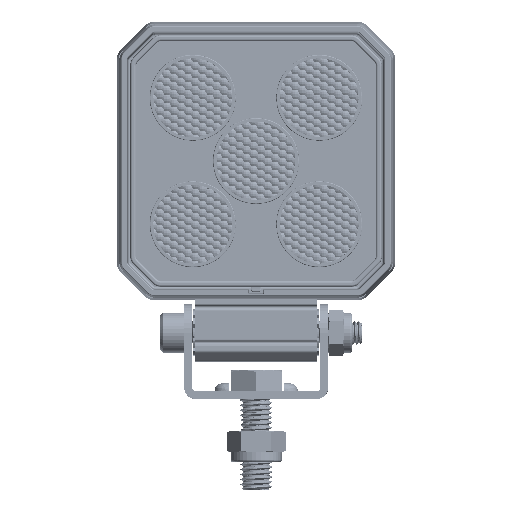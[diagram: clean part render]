
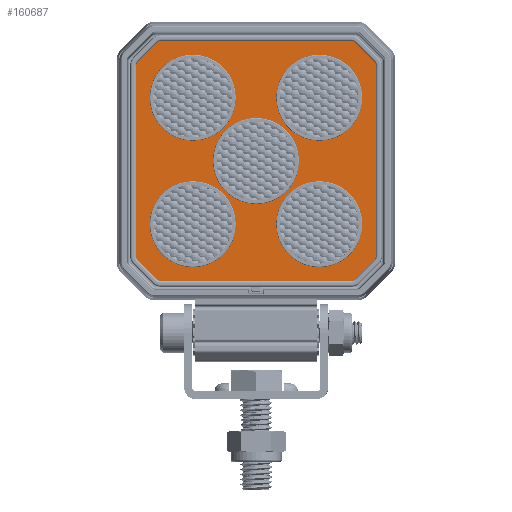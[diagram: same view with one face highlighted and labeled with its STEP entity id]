
A CAD part, top view. The second image highlights one B-rep face of the part: STEP entity #160687.
In plain terms, the highlighted planar face has unit normal (0, 0, 1).
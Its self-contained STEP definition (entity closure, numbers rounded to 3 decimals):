
#127038=CARTESIAN_POINT('',(24.107,28.85,0.));
#127039=DIRECTION('',(0.,0.,1.));
#127040=DIRECTION('',(0.707,0.707,0.));
#127041=AXIS2_PLACEMENT_3D('',#127038,#127039,#127040);
#127043=DIRECTION('',(-0.707,0.707,0.));
#127044=VECTOR('',#127043,6.707);
#127045=CARTESIAN_POINT('',(29.911,25.168,0.));
#127046=LINE('',#127045,#127044);
#127047=CARTESIAN_POINT('',(28.85,24.107,0.));
#127048=DIRECTION('',(0.,0.,1.));
#127049=DIRECTION('',(1.,0.,0.));
#127050=AXIS2_PLACEMENT_3D('',#127047,#127048,#127049);
#127052=DIRECTION('',(0.,1.,0.));
#127053=VECTOR('',#127052,48.215);
#127054=CARTESIAN_POINT('',(30.35,-24.107,0.));
#127055=LINE('',#127054,#127053);
#127056=CARTESIAN_POINT('',(28.85,-24.107,0.));
#127057=DIRECTION('',(0.,0.,1.));
#127058=DIRECTION('',(0.707,-0.707,0.));
#127059=AXIS2_PLACEMENT_3D('',#127056,#127057,#127058);
#127061=DIRECTION('',(0.707,0.707,0.));
#127062=VECTOR('',#127061,6.707);
#127063=CARTESIAN_POINT('',(25.168,-29.911,0.));
#127064=LINE('',#127063,#127062);
#127065=CARTESIAN_POINT('',(24.107,-28.85,0.));
#127066=DIRECTION('',(0.,0.,1.));
#127067=DIRECTION('',(0.,-1.,0.));
#127068=AXIS2_PLACEMENT_3D('',#127065,#127066,#127067);
#127070=DIRECTION('',(1.,0.,0.));
#127071=VECTOR('',#127070,48.215);
#127072=CARTESIAN_POINT('',(-24.107,-30.35,0.));
#127073=LINE('',#127072,#127071);
#127074=CARTESIAN_POINT('',(-24.107,-28.85,0.));
#127075=DIRECTION('',(0.,0.,1.));
#127076=DIRECTION('',(-0.707,-0.707,0.));
#127077=AXIS2_PLACEMENT_3D('',#127074,#127075,#127076);
#127079=DIRECTION('',(0.707,-0.707,0.));
#127080=VECTOR('',#127079,6.707);
#127081=CARTESIAN_POINT('',(-29.911,-25.168,0.));
#127082=LINE('',#127081,#127080);
#127083=CARTESIAN_POINT('',(-28.85,-24.107,0.));
#127084=DIRECTION('',(0.,0.,1.));
#127085=DIRECTION('',(-1.,0.,0.));
#127086=AXIS2_PLACEMENT_3D('',#127083,#127084,#127085);
#127088=DIRECTION('',(0.,-1.,0.));
#127089=VECTOR('',#127088,48.215);
#127090=CARTESIAN_POINT('',(-30.35,24.107,0.));
#127091=LINE('',#127090,#127089);
#127092=CARTESIAN_POINT('',(-28.85,24.107,0.));
#127093=DIRECTION('',(0.,0.,1.));
#127094=DIRECTION('',(-0.707,0.707,0.));
#127095=AXIS2_PLACEMENT_3D('',#127092,#127093,#127094);
#127097=DIRECTION('',(-0.707,-0.707,0.));
#127098=VECTOR('',#127097,6.707);
#127099=CARTESIAN_POINT('',(-25.168,29.911,0.));
#127100=LINE('',#127099,#127098);
#127101=CARTESIAN_POINT('',(-24.107,28.85,0.));
#127102=DIRECTION('',(0.,0.,1.));
#127103=DIRECTION('',(0.,1.,0.));
#127104=AXIS2_PLACEMENT_3D('',#127101,#127102,#127103);
#127106=DIRECTION('',(-1.,0.,0.));
#127107=VECTOR('',#127106,48.215);
#127108=CARTESIAN_POINT('',(24.107,30.35,0.));
#127109=LINE('',#127108,#127107);
#127110=CARTESIAN_POINT('',(0.,0.,0.));
#127111=DIRECTION('',(0.,0.,1.));
#127112=DIRECTION('',(0.,1.,0.));
#127113=AXIS2_PLACEMENT_3D('',#127110,#127111,#127112);
#127115=CARTESIAN_POINT('',(0.,0.,0.));
#127116=DIRECTION('',(0.,0.,1.));
#127117=DIRECTION('',(0.,-1.,0.));
#127118=AXIS2_PLACEMENT_3D('',#127115,#127116,#127117);
#127120=CARTESIAN_POINT('',(16.,16.,0.));
#127121=DIRECTION('',(0.,0.,1.));
#127122=DIRECTION('',(0.,1.,0.));
#127123=AXIS2_PLACEMENT_3D('',#127120,#127121,#127122);
#127125=CARTESIAN_POINT('',(16.,16.,0.));
#127126=DIRECTION('',(0.,0.,1.));
#127127=DIRECTION('',(0.,-1.,0.));
#127128=AXIS2_PLACEMENT_3D('',#127125,#127126,#127127);
#127130=CARTESIAN_POINT('',(16.,-16.,0.));
#127131=DIRECTION('',(0.,0.,1.));
#127132=DIRECTION('',(0.,1.,0.));
#127133=AXIS2_PLACEMENT_3D('',#127130,#127131,#127132);
#127135=CARTESIAN_POINT('',(16.,-16.,0.));
#127136=DIRECTION('',(0.,0.,1.));
#127137=DIRECTION('',(0.,-1.,0.));
#127138=AXIS2_PLACEMENT_3D('',#127135,#127136,#127137);
#127140=CARTESIAN_POINT('',(-16.,16.,0.));
#127141=DIRECTION('',(0.,0.,-1.));
#127142=DIRECTION('',(0.,1.,0.));
#127143=AXIS2_PLACEMENT_3D('',#127140,#127141,#127142);
#127145=CARTESIAN_POINT('',(-16.,16.,0.));
#127146=DIRECTION('',(0.,0.,-1.));
#127147=DIRECTION('',(0.,-1.,0.));
#127148=AXIS2_PLACEMENT_3D('',#127145,#127146,#127147);
#127150=CARTESIAN_POINT('',(-16.,-16.,0.));
#127151=DIRECTION('',(0.,0.,-1.));
#127152=DIRECTION('',(0.,1.,0.));
#127153=AXIS2_PLACEMENT_3D('',#127150,#127151,#127152);
#127155=CARTESIAN_POINT('',(-16.,-16.,0.));
#127156=DIRECTION('',(0.,0.,-1.));
#127157=DIRECTION('',(0.,-1.,0.));
#127158=AXIS2_PLACEMENT_3D('',#127155,#127156,#127157);
#157608=CARTESIAN_POINT('',(25.168,29.911,0.));
#157609=CARTESIAN_POINT('',(24.107,30.35,0.));
#157610=VERTEX_POINT('',#157608);
#157611=VERTEX_POINT('',#157609);
#157612=CARTESIAN_POINT('',(-24.107,30.35,0.));
#157613=VERTEX_POINT('',#157612);
#157614=CARTESIAN_POINT('',(-25.168,29.911,0.));
#157615=VERTEX_POINT('',#157614);
#157616=CARTESIAN_POINT('',(-29.911,25.168,0.));
#157617=VERTEX_POINT('',#157616);
#157618=CARTESIAN_POINT('',(-30.35,24.107,0.));
#157619=VERTEX_POINT('',#157618);
#157620=CARTESIAN_POINT('',(-30.35,-24.107,0.));
#157621=VERTEX_POINT('',#157620);
#157622=CARTESIAN_POINT('',(-29.911,-25.168,0.));
#157623=VERTEX_POINT('',#157622);
#157624=CARTESIAN_POINT('',(-25.168,-29.911,0.));
#157625=VERTEX_POINT('',#157624);
#157626=CARTESIAN_POINT('',(-24.107,-30.35,0.));
#157627=VERTEX_POINT('',#157626);
#157628=CARTESIAN_POINT('',(24.107,-30.35,0.));
#157629=VERTEX_POINT('',#157628);
#157630=CARTESIAN_POINT('',(25.168,-29.911,0.));
#157631=VERTEX_POINT('',#157630);
#157632=CARTESIAN_POINT('',(29.911,-25.168,0.));
#157633=VERTEX_POINT('',#157632);
#157634=CARTESIAN_POINT('',(30.35,-24.107,0.));
#157635=VERTEX_POINT('',#157634);
#157636=CARTESIAN_POINT('',(30.35,24.107,0.));
#157637=VERTEX_POINT('',#157636);
#157638=CARTESIAN_POINT('',(29.911,25.168,0.));
#157639=VERTEX_POINT('',#157638);
#158939=CARTESIAN_POINT('',(0.,10.9,0.));
#158940=CARTESIAN_POINT('',(0.,-10.9,0.));
#158941=VERTEX_POINT('',#158939);
#158942=VERTEX_POINT('',#158940);
#158943=CARTESIAN_POINT('',(16.,26.9,0.));
#158944=CARTESIAN_POINT('',(16.,5.1,0.));
#158945=VERTEX_POINT('',#158943);
#158946=VERTEX_POINT('',#158944);
#158947=CARTESIAN_POINT('',(16.,-5.1,0.));
#158948=CARTESIAN_POINT('',(16.,-26.9,0.));
#158949=VERTEX_POINT('',#158947);
#158950=VERTEX_POINT('',#158948);
#158951=CARTESIAN_POINT('',(-16.,26.9,0.));
#158952=CARTESIAN_POINT('',(-16.,5.1,0.));
#158953=VERTEX_POINT('',#158951);
#158954=VERTEX_POINT('',#158952);
#158955=CARTESIAN_POINT('',(-16.,-5.1,0.));
#158956=CARTESIAN_POINT('',(-16.,-26.9,0.));
#158957=VERTEX_POINT('',#158955);
#158958=VERTEX_POINT('',#158956);
#160620=CARTESIAN_POINT('',(0.,0.,0.));
#160621=DIRECTION('',(0.,0.,1.));
#160622=DIRECTION('',(1.,0.,0.));
#160623=AXIS2_PLACEMENT_3D('',#160620,#160621,#160622);
#160624=PLANE('',#160623);
#160626=ORIENTED_EDGE('',*,*,#160625,.F.);
#160628=ORIENTED_EDGE('',*,*,#160627,.F.);
#160630=ORIENTED_EDGE('',*,*,#160629,.F.);
#160632=ORIENTED_EDGE('',*,*,#160631,.F.);
#160634=ORIENTED_EDGE('',*,*,#160633,.F.);
#160636=ORIENTED_EDGE('',*,*,#160635,.F.);
#160638=ORIENTED_EDGE('',*,*,#160637,.F.);
#160640=ORIENTED_EDGE('',*,*,#160639,.F.);
#160642=ORIENTED_EDGE('',*,*,#160641,.F.);
#160644=ORIENTED_EDGE('',*,*,#160643,.F.);
#160646=ORIENTED_EDGE('',*,*,#160645,.F.);
#160648=ORIENTED_EDGE('',*,*,#160647,.F.);
#160650=ORIENTED_EDGE('',*,*,#160649,.F.);
#160652=ORIENTED_EDGE('',*,*,#160651,.F.);
#160654=ORIENTED_EDGE('',*,*,#160653,.F.);
#160656=ORIENTED_EDGE('',*,*,#160655,.F.);
#160657=EDGE_LOOP('',(#160626,#160628,#160630,#160632,#160634,#160636,#160638,
#160640,#160642,#160644,#160646,#160648,#160650,#160652,#160654,#160656));
#160658=FACE_OUTER_BOUND('',#160657,.F.);
#160659=ORIENTED_EDGE('',*,*,#160614,.T.);
#160660=ORIENTED_EDGE('',*,*,#160600,.T.);
#160661=EDGE_LOOP('',(#160659,#160660));
#160662=FACE_BOUND('',#160661,.F.);
#160664=ORIENTED_EDGE('',*,*,#160663,.T.);
#160666=ORIENTED_EDGE('',*,*,#160665,.T.);
#160667=EDGE_LOOP('',(#160664,#160666));
#160668=FACE_BOUND('',#160667,.F.);
#160670=ORIENTED_EDGE('',*,*,#160669,.T.);
#160672=ORIENTED_EDGE('',*,*,#160671,.T.);
#160673=EDGE_LOOP('',(#160670,#160672));
#160674=FACE_BOUND('',#160673,.F.);
#160676=ORIENTED_EDGE('',*,*,#160675,.F.);
#160678=ORIENTED_EDGE('',*,*,#160677,.F.);
#160679=EDGE_LOOP('',(#160676,#160678));
#160680=FACE_BOUND('',#160679,.F.);
#160682=ORIENTED_EDGE('',*,*,#160681,.F.);
#160684=ORIENTED_EDGE('',*,*,#160683,.F.);
#160685=EDGE_LOOP('',(#160682,#160684));
#160686=FACE_BOUND('',#160685,.F.);
#160687=ADVANCED_FACE('',(#160658,#160662,#160668,#160674,#160680,#160686),
#160624,.T.);
#127042=CIRCLE('',#127041,1.5);
#127051=CIRCLE('',#127050,1.5);
#127060=CIRCLE('',#127059,1.5);
#127069=CIRCLE('',#127068,1.5);
#127078=CIRCLE('',#127077,1.5);
#127087=CIRCLE('',#127086,1.5);
#127096=CIRCLE('',#127095,1.5);
#127105=CIRCLE('',#127104,1.5);
#127114=CIRCLE('',#127113,10.9);
#127119=CIRCLE('',#127118,10.9);
#127124=CIRCLE('',#127123,10.9);
#127129=CIRCLE('',#127128,10.9);
#127134=CIRCLE('',#127133,10.9);
#127139=CIRCLE('',#127138,10.9);
#127144=CIRCLE('',#127143,10.9);
#127149=CIRCLE('',#127148,10.9);
#127154=CIRCLE('',#127153,10.9);
#127159=CIRCLE('',#127158,10.9);
#160600=EDGE_CURVE('',#158942,#158941,#127119,.T.);
#160614=EDGE_CURVE('',#158941,#158942,#127114,.T.);
#160625=EDGE_CURVE('',#157610,#157611,#127042,.T.);
#160627=EDGE_CURVE('',#157639,#157610,#127046,.T.);
#160629=EDGE_CURVE('',#157637,#157639,#127051,.T.);
#160631=EDGE_CURVE('',#157635,#157637,#127055,.T.);
#160633=EDGE_CURVE('',#157633,#157635,#127060,.T.);
#160635=EDGE_CURVE('',#157631,#157633,#127064,.T.);
#160637=EDGE_CURVE('',#157629,#157631,#127069,.T.);
#160639=EDGE_CURVE('',#157627,#157629,#127073,.T.);
#160641=EDGE_CURVE('',#157625,#157627,#127078,.T.);
#160643=EDGE_CURVE('',#157623,#157625,#127082,.T.);
#160645=EDGE_CURVE('',#157621,#157623,#127087,.T.);
#160647=EDGE_CURVE('',#157619,#157621,#127091,.T.);
#160649=EDGE_CURVE('',#157617,#157619,#127096,.T.);
#160651=EDGE_CURVE('',#157615,#157617,#127100,.T.);
#160653=EDGE_CURVE('',#157613,#157615,#127105,.T.);
#160655=EDGE_CURVE('',#157611,#157613,#127109,.T.);
#160663=EDGE_CURVE('',#158945,#158946,#127124,.T.);
#160665=EDGE_CURVE('',#158946,#158945,#127129,.T.);
#160669=EDGE_CURVE('',#158949,#158950,#127134,.T.);
#160671=EDGE_CURVE('',#158950,#158949,#127139,.T.);
#160675=EDGE_CURVE('',#158953,#158954,#127144,.T.);
#160677=EDGE_CURVE('',#158954,#158953,#127149,.T.);
#160681=EDGE_CURVE('',#158957,#158958,#127154,.T.);
#160683=EDGE_CURVE('',#158958,#158957,#127159,.T.);
